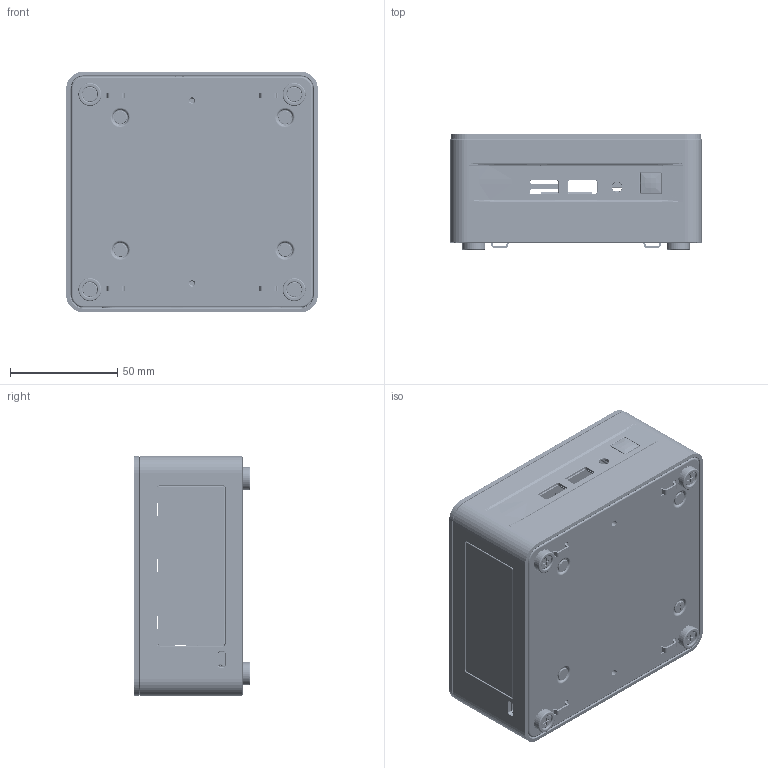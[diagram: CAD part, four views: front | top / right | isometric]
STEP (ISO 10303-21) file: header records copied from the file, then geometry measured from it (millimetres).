
FILE_DESCRIPTION((''),'2;1');
FILE_NAME('AN_ME_TALL-3D-20221109_ASM','2023-02-24T09:03:00',('djgrygi'),('INTEL'),'CREO PARAMETRIC BY PTC INC, 2022284','CREO PARAMETRIC BY PTC INC, 2022284','');
FILE_SCHEMA(('CONFIG_CONTROL_DESIGN'));
Products named in the file (74): AN_TOP_COVER_1; WS_TOP_COVER_ASM_ASM_1_ASM; WS_TALL_TOP_SHIELD_NEW-2022___1; WS_TALL_TOP_SHIELD_NEW-2022___2; WS_TALL_TOP_SHIELD_NEW-2022___3; WS_TALL_TOP_SHIELD_NEW-2022___4; WS_TALL_TOP_SHIELD_NEW-2022___5; WS_TALL_TOP_SHIELD_NEW-2022___6; WS_TALL_TOP_SHIELD_NEW-2022___7; WS_TALL_TOP_SHIELD_NEW-2022__1_ASM; WS_TOP_SHIELD_STANDOFF_1__1; TN_TOP_SHIELD_STANDOFF_2_1; WS_TOP_SHIELD_PW_MYLAR_1; WS_TOP_SHIELD_PW_MYLAR_S_1; WS_PW_LED_MYLAR_ASM_1_ASM; WS_TALL_TOP_SHIELD_NEW-2022__AS_ASM; WS_TALL_MID_FRAME_NEW_1; WS_TALL_MESH_1; TN_SCREW_M2-5L4_1; WS_TOP_SHIELD_PW_SPONGE_1; WS_TOP_SHIELD_PW_SPONGE_M_1; WS_TOP_SHIELD_PW_SPONGE_2_1; WS_TOP_SHIELD_PW_SPONGE_ASM_1_ASM; WS_PW_BUTTON_C_1; WS_PW_BUTTON_ASSY_C_ASM_1_ASM; TN_SCREW_M3L5_F_1; WS_TALL_MID_FRAME_ASM_ASM_1_ASM; WS_TALL_BTM_BKT_NEW-1_1; TN_BTM_BKT_T_MB_STANDOFF_1; TN_RUBBER_FOOT_1; WS_BTM_COVER_T_SCREW_1_1; TN_C_RING_1; TN_VESA_BKT_STANDOFF_1; WS_HDD_BKT_STANDOFF_NEW_1; TN_M2_BKT_STANDOFF_1; WS_HDD_RUBBER_PLUG_1; SCREW_M30H40_IBKNIM1_1; WS_T_FRONT_USB_GASKET_1; WS_FRONT_AUDIO_GASKET_1; WS_DAUGHTER_BKT_GASKET_1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
Assembly tree (116 placements, depth 9):
  AN_ME_TALL-3D-20221109_ASM
    00_WS_ALL_ASM_CHECK_ASM_1_ASM
      WS_ME_PLACEMENT_ASM_ASM_1_ASM
        WS_ME_TALL_ASSY_ASM_1_ASM
          WS_TOP_COVER_ASM_ASM_1_ASM
            AN_TOP_COVER_1
          WS_TALL_TOP_SHIELD_NEW-2022__AS_ASM
            WS_TALL_TOP_SHIELD_NEW-2022__1_ASM
              WS_TALL_TOP_SHIELD_NEW-2022___1
              WS_TALL_TOP_SHIELD_NEW-2022___2
              WS_TALL_TOP_SHIELD_NEW-2022___3
              WS_TALL_TOP_SHIELD_NEW-2022___4
              WS_TALL_TOP_SHIELD_NEW-2022___5
              WS_TALL_TOP_SHIELD_NEW-2022___6
              WS_TALL_TOP_SHIELD_NEW-2022___7
            WS_TOP_SHIELD_STANDOFF_1__1  x4
            TN_TOP_SHIELD_STANDOFF_2_1  x2
            WS_PW_LED_MYLAR_ASM_1_ASM
              WS_TOP_SHIELD_PW_MYLAR_1
              WS_TOP_SHIELD_PW_MYLAR_S_1
          WS_TALL_MID_FRAME_ASM_ASM_1_ASM
            WS_TALL_MID_FRAME_NEW_1
            WS_TALL_MESH_1  x2
            TN_SCREW_M2-5L4_1  x4
            WS_TOP_SHIELD_PW_SPONGE_ASM_1_ASM
              WS_TOP_SHIELD_PW_SPONGE_1
              WS_TOP_SHIELD_PW_SPONGE_M_1
              WS_TOP_SHIELD_PW_SPONGE_2_1
            WS_PW_BUTTON_ASSY_C_ASM_1_ASM
              WS_PW_BUTTON_C_1
            TN_SCREW_M3L5_F_1  x2
          WS_TALL_BTM_BKT_ASM_1_ASM
            WS_TALL_BTM_BKT_ASM_NEW-1_ASM_1_ASM
              WS_TALL_BTM_BKT_NEW-1_1
              TN_BTM_BKT_T_MB_STANDOFF_1  x4
              TN_RUBBER_FOOT_1  x4
              WS_BTM_COVER_T_SCREW_1_1  x4
              TN_C_RING_1  x4
              TN_VESA_BKT_STANDOFF_1  x2
              WS_HDD_BKT_STANDOFF_NEW_1  x2
              TN_M2_BKT_STANDOFF_1  x4
              TN_SCREW_M2-5L4_1  x4
              WS_HDD_RUBBER_PLUG_1  x4
              SCREW_M30H40_IBKNIM1_1  x4
              WS_T_FRONT_USB_GASKET_1
              WS_FRONT_AUDIO_GASKET_1
              WS_DAUGHTER_BKT_GASKET_1  x2
              TN_BTM_BKT_SPONGE_1
              WS_DIMM_BRKT_V1_ASM_ASM_1_ASM
                WS_DIMM_BRKT_V1_1_ASM
                  WS_DIMM_BRKT_V1_1_1
                  WS_DIMM_BRKT_V1_1_2
                WS_ST_BTM_BKT_MYLAR_1  x2
                WS_T_DIMM_SPONGE_1
                WS_DIMM_BKT_SPONGE_TOP_1
                TN_DIMM_BKT_SPONGE_REAR_1
                TN_DIMM_BKT_MYLAR_1_1
              WS_M_2_BKT_ASM_ASM_1_ASM
                WS_M2_BKT_CU_FFC_A2_1
                WS_M2_BKT_A_1
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Bounding box: 117 x 54 x 112 mm (x, y, z)
Volume: 112769.1 mm3; surface area: 223895.1 mm2
Topology: 99 solids, 99 shells, 8125 faces, 21877 edges, 13996 vertices
Faces by surface type: plane 4304, cylinder 2374, cone 588, torus 510, bspline 310, sphere 34, extrusion 5
Entity records: 234951 total; most frequent: CARTESIAN_POINT 55262, ORIENTED_EDGE 37870, DIRECTION 37146, EDGE_CURVE 18935, AXIS2_PLACEMENT_3D 12613, VERTEX_POINT 12078, VECTOR 11920, LINE 11915
